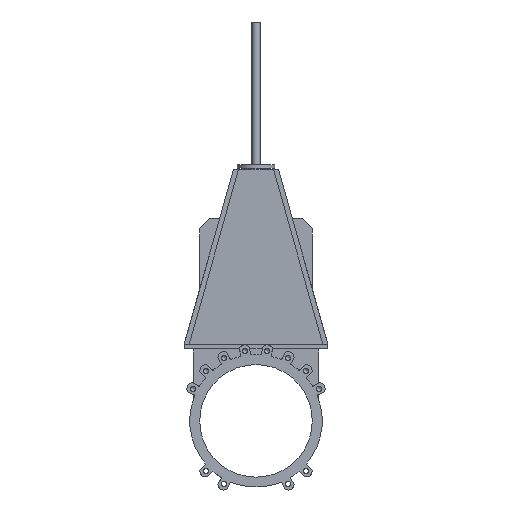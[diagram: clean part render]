
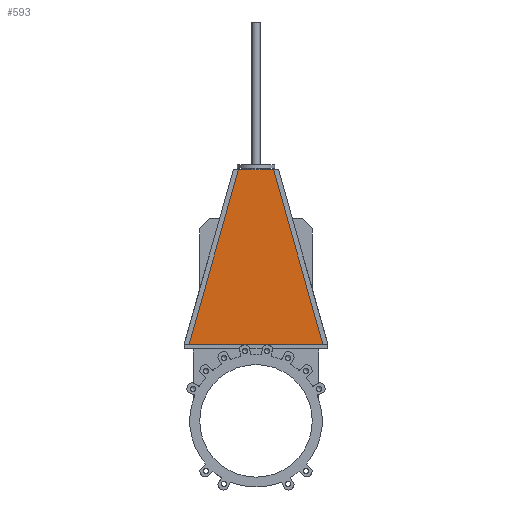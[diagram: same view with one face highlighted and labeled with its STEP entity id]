
A CAD part, front view. The second image highlights one B-rep face of the part: STEP entity #593.
In plain terms, the highlighted planar face has unit normal (0, -1, 0).
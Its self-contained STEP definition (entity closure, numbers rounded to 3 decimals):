
#593=ADVANCED_FACE('',(#3096),#3098,.F.);
#3096=FACE_BOUND('',#3097,.T.);
#3097=EDGE_LOOP('',(#5201,#5202,#5203,#5204,#5205,#5206));
#3098=PLANE('',#3099);
#3099=AXIS2_PLACEMENT_3D('',#3100,#3101,#3102);
#3100=CARTESIAN_POINT('',(267.5,-36.,305.5));
#3101=DIRECTION('',(0.,1.,0.));
#3102=DIRECTION('',(-1.,0.,0.));
#5201=ORIENTED_EDGE('',*,*,#6474,.F.);
#5202=ORIENTED_EDGE('',*,*,#6473,.T.);
#5203=ORIENTED_EDGE('',*,*,#6559,.F.);
#5204=ORIENTED_EDGE('',*,*,#6561,.F.);
#5205=ORIENTED_EDGE('',*,*,#6562,.T.);
#5206=ORIENTED_EDGE('',*,*,#6480,.T.);
#6473=EDGE_CURVE('',#7240,#7310,#7312,.T.);
#6474=EDGE_CURVE('',#7240,#7244,#7313,.F.);
#6480=EDGE_CURVE('',#7324,#7244,#7325,.T.);
#6559=EDGE_CURVE('',#7459,#7310,#7460,.T.);
#6561=EDGE_CURVE('',#7462,#7459,#7463,.T.);
#6562=EDGE_CURVE('',#7462,#7324,#7464,.T.);
#7240=VERTEX_POINT('',#8682);
#7244=VERTEX_POINT('',#8692);
#7310=VERTEX_POINT('',#8844);
#7312=LINE('',#8848,#8849);
#7313=LINE('',#8851,#8852);
#7324=VERTEX_POINT('',#8879);
#7325=LINE('',#8880,#8881);
#7459=VERTEX_POINT('',#9175);
#7460=LINE('',#9176,#9177);
#7462=VERTEX_POINT('',#9182);
#7463=LINE('',#9183,#9184);
#7464=LINE('',#9186,#9187);
#8682=CARTESIAN_POINT('',(-17.436,-36.,1005.));
#8692=CARTESIAN_POINT('',(17.436,-36.,1005.));
#8844=CARTESIAN_POINT('',(-70.,-36.,1005.));
#8848=CARTESIAN_POINT('',(-17.436,-36.,1005.));
#8849=VECTOR('',#8850,1.);
#8850=DIRECTION('',(-1.,0.,0.));
#8851=CARTESIAN_POINT('',(17.436,-36.,1005.));
#8852=VECTOR('',#8853,1.);
#8853=DIRECTION('',(-1.,0.,0.));
#8879=CARTESIAN_POINT('',(70.,-36.,1005.));
#8880=CARTESIAN_POINT('',(70.,-36.,1005.));
#8881=VECTOR('',#8882,1.);
#8882=DIRECTION('',(-1.,0.,0.));
#9175=CARTESIAN_POINT('',(-267.5,-36.,305.5));
#9176=CARTESIAN_POINT('',(-267.5,-36.,305.5));
#9177=VECTOR('',#9178,1.);
#9178=DIRECTION('',(0.272,0.,0.962));
#9182=CARTESIAN_POINT('',(267.5,-36.,305.5));
#9183=CARTESIAN_POINT('',(267.5,-36.,305.5));
#9184=VECTOR('',#9185,1.);
#9185=DIRECTION('',(-1.,0.,0.));
#9186=CARTESIAN_POINT('',(267.5,-36.,305.5));
#9187=VECTOR('',#9188,1.);
#9188=DIRECTION('',(-0.272,0.,0.962));
